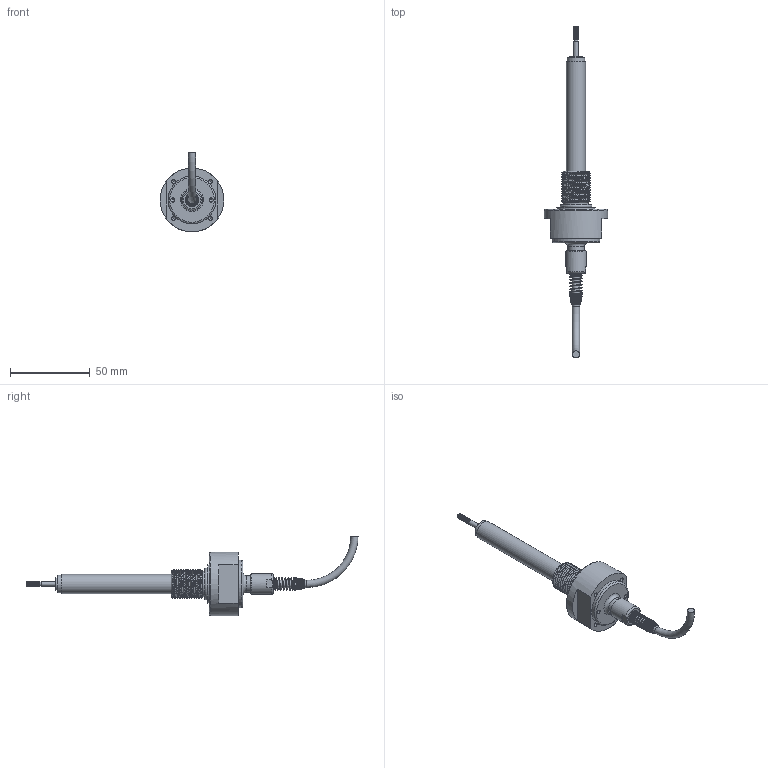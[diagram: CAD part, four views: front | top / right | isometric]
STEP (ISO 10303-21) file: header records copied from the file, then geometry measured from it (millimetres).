
FILE_DESCRIPTION( ( 'STEP AP214' ), '1' );
FILE_NAME( 'N:/Engineering/CAD_Solid/LVDT/HYD/Kunden-3D-Modell/SM25-HYD-M-18-K.stp', '2011-12-14T13:48:02', ( ' ' ), ( ' ' ), 'XStep 1.0', ' ', ' ' );
FILE_SCHEMA( ( 'CONFIG_CONTROL_DESIGN) ( )' ) );
Length unit declared in the file: metre
Products named in the file (12): 1; 2; 3; 4; 5; 6; 7; 8; 9; 10; 11; 12
Bounding box: 40 x 208.25 x 50 mm (x, y, z)
Volume: 1245.2 mm3; surface area: 15683.1 mm2
Topology: 2 solids, 76 shells, 80 faces, 292 edges, 241 vertices
Faces by surface type: plane 24, cylinder 23, cone 17, bspline 11, torus 5
Full cylindrical faces by diameter (mm): 2.5 x5, 2.6 x2, 3 x1, 4 x1, 4.5 x1, 6 x1, 8 x1, 8.2 x1, 10.6 x1, 11 x1, 12 x1, 13 x1, 15.8 x1, 24 x1, 30 x1, 40 x1
Entity records: 17620 total; most frequent: CARTESIAN_POINT 14852, DIRECTION 458, ORIENTED_EDGE 216, AXIS2_PLACEMENT_3D 215, EDGE_CURVE 213, VERTEX_POINT 213, CIRCLE 135, EDGE_LOOP 134
